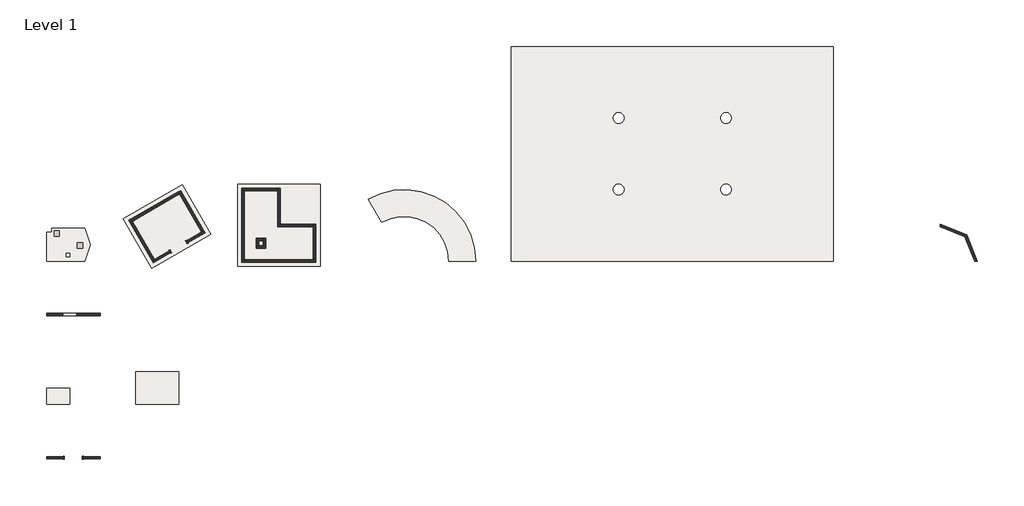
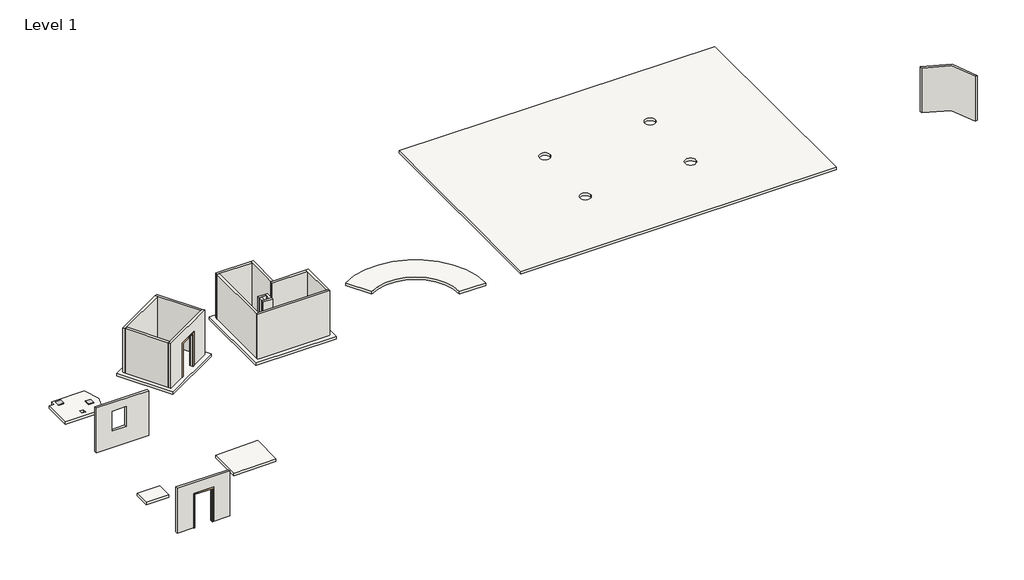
# One storey: 17 walls, 7 slabs, 2 doors, 2 flow terminals.
"""IFC4 building model written with IfcOpenShell, lengths in millimetres."""

from ifc_helpers import new_model, si_unit, point, frame, frame_2d, origin, origin_with_axes, place, context, project, spatial, polyline, circle_curve, trimmed, segment, composite_curve, outline, extrude, faceted_brep, transform, mapped, element, save
from components import bs_test_door_bs_test_door_506ca35c, bs_test_drain_bs_test_drain_60730005

model = new_model("IFC4")

# Units and contexts
model_context = context("Model", 3, world=origin())
ifc_project = project(units=[si_unit("LENGTHUNIT", "METRE", prefix="MILLI")], contexts=[model_context])

# Site, building, storey
site = spatial("IfcSite", under=ifc_project)
building = spatial("IfcBuilding", under=site)
storey = spatial("IfcBuildingStorey", under=building, Name="Level 1", Elevation=0.0)

# Doors
placement = place(None, origin())
bs_test_door_bs_test_door_shape = bs_test_door_bs_test_door_506ca35c(model_context)
element("IfcDoor", 1, ObjectType="BS_Test_Door : BS_Test_Door", at=placement, inside=storey, context=model_context, shape_type="MappedRepresentation", body=[
    mapped(bs_test_door_bs_test_door_shape, transform((7385.6406461, 800.0, 0.0), x_axis=(0.8660254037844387, 0.4999999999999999, 0.0), y_axis=(-0.4999999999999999, 0.8660254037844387, 0.0), z_axis=(0.0, 0.0, 1.0))),
])
element("IfcDoor", 2, ObjectType="BS_Test_Door : BS_Test_Door", at=placement, inside=storey, context=model_context, shape_type="MappedRepresentation", body=[
    mapped(bs_test_door_bs_test_door_shape, transform((1500.0, -11000.0, 0.0), x_axis=(1.0, 0.0, 0.0), y_axis=(0.0, 1.0, 0.0), z_axis=(0.0, 0.0, 1.0))),
])

# Flow terminals
bs_test_drain_bs_test_drain_shape = bs_test_drain_bs_test_drain_60730005(model_context)
element("IfcFlowTerminal", 3, ObjectType="BS_Test_Drain : BS_Test_Drain", at=placement, inside=storey, context=model_context, shape_type="MappedRepresentation", body=[
    mapped(bs_test_drain_bs_test_drain_shape, transform((1880.0, 870.0, 0.0), x_axis=(1.0, 0.0, 0.0), y_axis=(0.0, 1.0, 0.0), z_axis=(0.0, 0.0, 1.0))),
])
element("IfcFlowTerminal", 4, ObjectType="BS_Test_WC : BS_Test_WC", at=placement, inside=storey, context=model_context, shape_type="MappedRepresentation", body=[
    mapped(bs_test_drain_bs_test_drain_shape, transform((570.0, 1550.0, 0.0), x_axis=(1.0, 0.0, 0.0), y_axis=(0.0, 1.0, 0.0), z_axis=(0.0, 0.0, 1.0))),
])

# Slabs
element("IfcSlab", 5, ObjectType="Generic 150mm", at=placement, inside=storey, context=model_context, shape_type="SweptSolid", body=[
    extrude(outline(composite_curve([segment(polyline([(2150.0, 0.0), (0.0, 0.0), (0.0, 1600.0), (300.0, 1600.0), (300.0, 1850.0), (2150.0, 1850.0)]), True, "CONTINUOUS"), segment(trimmed(circle_curve(frame_2d((873.9583333, 925.0)), 1576.0416667), [point((2150.0, 1850.0))], [point((2150.0, 0.0))], False, "CARTESIAN"), True, "CONTINUOUS")], self_intersect=False), holes=[polyline([(1100.0, 450.0), (1100.0, 250.0), (1300.0, 250.0), (1300.0, 450.0), (1100.0, 450.0)])]), frame((0.0, 0.0, -150.0), z_axis=(0.0, 0.0, 1.0), x_axis=(1.0, 0.0, 0.0)), (0.0, 0.0, 1.0), 150.0),
])
element("IfcSlab", 6, ObjectType="Generic 150mm", at=placement, inside=storey, context=model_context, shape_type="SweptSolid", body=[
    extrude(outline(polyline([(9181.0889132, 1490.1923789), (5890.1923789, -409.8076211), (4290.1923789, 2361.473671), (7581.0889132, 4261.473671), (9181.0889132, 1490.1923789)])), frame((0.0, 0.0, -150.0), z_axis=(0.0, 0.0, 1.0), x_axis=(1.0, 0.0, 0.0)), (0.0, 0.0, 1.0), 150.0),
])
element("IfcSlab", 7, ObjectType="Generic 150mm", at=placement, inside=storey, context=model_context, shape_type="SweptSolid", body=[
    extrude(outline(polyline([(15300.0, -300.0), (10700.0, -300.0), (10700.0, 4300.0), (15300.0, 4300.0), (15300.0, -300.0)])), frame((0.0, 0.0, -150.0), z_axis=(0.0, 0.0, 1.0), x_axis=(1.0, 0.0, 0.0)), (0.0, 0.0, 1.0), 150.0),
])
element("IfcSlab", 8, ObjectType="Generic 150mm", at=placement, inside=storey, context=model_context, shape_type="SweptSolid", body=[
    extrude(outline(composite_curve([segment(polyline([(24000.0, 0.0), (22500.0, 0.0)]), True, "CONTINUOUS"), segment(trimmed(circle_curve(frame_2d((20000.0, 0.0)), 2500.0), [point((22500.0, 0.0))], [point((18750.0, 2165.0635095))], True, "CARTESIAN"), True, "CONTINUOUS"), segment(polyline([(18750.0, 2165.0635095), (18000.0, 3464.1016151)]), True, "CONTINUOUS"), segment(trimmed(circle_curve(frame_2d((20000.0, 0.0)), 4000.0), [point((18000.0, 3464.1016151))], [point((24000.0, 0.0))], False, "CARTESIAN"), True, "CONTINUOUS")], self_intersect=False)), frame((0.0, 0.0, -150.0), z_axis=(0.0, 0.0, 1.0), x_axis=(1.0, 0.0, 0.0)), (0.0, 0.0, 1.0), 150.0),
])
element("IfcSlab", 9, ObjectType="Generic 150mm", at=placement, inside=storey, context=model_context, shape_type="SweptSolid", body=[
    extrude(outline(polyline([(44000.0, 0.0), (26000.0, 0.0), (26000.0, 12000.0), (44000.0, 12000.0), (44000.0, 0.0)]), holes=[composite_curve([segment(trimmed(circle_curve(frame_2d((32000.0, 4000.0)), 300.0), [point((31700.0, 4000.0))], [point((32300.0, 4000.0))], True, "CARTESIAN"), True, "CONTINUOUS"), segment(trimmed(circle_curve(frame_2d((32000.0, 4000.0)), 300.0), [point((32300.0, 4000.0))], [point((31700.0, 4000.0))], True, "CARTESIAN"), True, "CONTINUOUS")], self_intersect=False), composite_curve([segment(trimmed(circle_curve(frame_2d((38000.0, 4000.0)), 300.0), [point((37700.0, 4000.0))], [point((38300.0, 4000.0))], True, "CARTESIAN"), True, "CONTINUOUS"), segment(trimmed(circle_curve(frame_2d((38000.0, 4000.0)), 300.0), [point((38300.0, 4000.0))], [point((37700.0, 4000.0))], True, "CARTESIAN"), True, "CONTINUOUS")], self_intersect=False), composite_curve([segment(trimmed(circle_curve(frame_2d((32000.0, 8000.0)), 300.0), [point((31700.0, 8000.0))], [point((32300.0, 8000.0))], True, "CARTESIAN"), True, "CONTINUOUS"), segment(trimmed(circle_curve(frame_2d((32000.0, 8000.0)), 300.0), [point((32300.0, 8000.0))], [point((31700.0, 8000.0))], True, "CARTESIAN"), True, "CONTINUOUS")], self_intersect=False), composite_curve([segment(trimmed(circle_curve(frame_2d((38000.0, 8000.0)), 300.0), [point((37700.0, 8000.0))], [point((38300.0, 8000.0))], True, "CARTESIAN"), True, "CONTINUOUS"), segment(trimmed(circle_curve(frame_2d((38000.0, 8000.0)), 300.0), [point((38300.0, 8000.0))], [point((37700.0, 8000.0))], True, "CARTESIAN"), True, "CONTINUOUS")], self_intersect=False)]), frame((0.0, 0.0, -150.0), z_axis=(0.0, 0.0, 1.0), x_axis=(1.0, 0.0, 0.0)), (0.0, 0.0, 1.0), 150.0),
])
element("IfcSlab", 10, ObjectType="Generic 150mm", at=placement, inside=storey, context=model_context, shape_type="SweptSolid", body=[
    extrude(outline(polyline([(1300.0, -8000.0), (0.0, -8000.0), (0.0, -7100.0), (1300.0, -7100.0), (1300.0, -8000.0)])), frame((0.0, 0.0, -150.0), z_axis=(0.0, 0.0, 1.0), x_axis=(1.0, 0.0, 0.0)), (0.0, 0.0, 1.0), 150.0),
])
element("IfcSlab", 11, ObjectType="Generic 150mm", at=placement, inside=storey, context=model_context, shape_type="SweptSolid", body=[
    extrude(outline(polyline([(-150.029997, 5000.0), (-102.029997, 7400.0), (48.0, 7400.0), (0.0, 5000.0), (-150.029997, 5000.0)])), frame((0.0, -8000.0, 0.0), z_axis=(0.0, 1.0, 0.0), x_axis=(0.0, 0.0, 1.0)), (0.0, 0.0, 1.0), 1800.0),
])

# Walls
element("IfcWall", 12, ObjectType="Interior - 138mm Partition (1-hr)", at=placement, inside=storey, context=model_context, shape_type="Brep", body=[
    faceted_brep([(8865.8785513, 1574.6527408, 2700.0), (5974.6527408, -94.5972592, 2700.0), (5974.6527408, -94.5972592, 0.0), (6987.2529442, 490.0277408, 0.0), (6987.2529442, 490.0277408, 2000.0), (7853.2783479, 990.0277408, 2000.0), (7853.2783479, 990.0277408, 0.0), (8865.8785513, 1574.6527408, 0.0), (5905.4027408, 25.3472592, 2700.0), (6025.3472592, 94.5972592, 2700.0), (8676.6840329, 1625.3472592, 2700.0), (8796.6285513, 1694.5972592, 2700.0), (8796.6285513, 1694.5972592, 0.0), (8676.6840329, 1625.3472592, 0.0), (7784.0283479, 1109.9722592, 0.0), (7784.0283479, 1109.9722592, 2000.0), (6918.0029442, 609.9722592, 2000.0), (6918.0029442, 609.9722592, 0.0), (6025.3472592, 94.5972592, 0.0), (5905.4027408, 25.3472592, 0.0)], [[[0, 1, 2, 3, 4, 5, 6, 7]], [[8, 9, 10, 11, 12, 13, 14, 15, 16, 17, 18, 19]], [[2, 19, 18, 17, 3]], [[12, 7, 6, 14, 13]], [[1, 0, 11, 10, 9, 8]], [[5, 15, 14, 6]], [[15, 5, 4, 16]], [[16, 4, 3, 17]], [[2, 1, 8, 19]], [[0, 7, 12, 11]]]),
])
element("IfcWall", 13, ObjectType="Interior - 138mm Partition (1-hr)", at=placement, inside=storey, context=model_context, shape_type="Brep", body=[
    faceted_brep([(8796.6285513, 1694.5972592, 0.0), (7496.6285513, 3946.2633091, 0.0), (7496.6285513, 3946.2633091, 2700.0), (8796.6285513, 1694.5972592, 2700.0), (8676.6840329, 1625.3472592, 0.0), (8676.6840329, 1625.3472592, 2700.0), (7445.9340329, 3757.0687906, 2700.0), (7376.6840329, 3877.0133091, 2700.0), (7376.6840329, 3877.0133091, 0.0), (7445.9340329, 3757.0687906, 0.0)], [[[0, 1, 2, 3]], [[4, 5, 6, 7, 8, 9]], [[1, 0, 4, 9, 8]], [[3, 2, 7, 6, 5]], [[2, 1, 8, 7]], [[0, 3, 5, 4]]]),
])
element("IfcWall", 14, ObjectType="Interior - 138mm Partition (1-hr)", at=placement, inside=storey, context=model_context, shape_type="Brep", body=[
    faceted_brep([(7376.6840329, 3877.0133091, 0.0), (4605.4027408, 2277.0133091, 0.0), (4605.4027408, 2277.0133091, 2700.0), (7376.6840329, 3877.0133091, 2700.0), (7445.9340329, 3757.0687906, 0.0), (7445.9340329, 3757.0687906, 2700.0), (4794.5972592, 2226.3187906, 2700.0), (4674.6527408, 2157.0687906, 2700.0), (4674.6527408, 2157.0687906, 0.0), (4794.5972592, 2226.3187906, 0.0)], [[[0, 1, 2, 3]], [[4, 5, 6, 7, 8, 9]], [[1, 0, 4, 9, 8]], [[3, 2, 7, 6, 5]], [[2, 1, 8, 7]], [[0, 3, 5, 4]]]),
])
element("IfcWall", 15, ObjectType="Interior - 138mm Partition (1-hr)", at=placement, inside=storey, context=model_context, shape_type="SweptSolid", body=[
    extrude(outline(polyline([(5905.4027408, 25.3472592), (4674.6527408, 2157.0687906), (4794.5972592, 2226.3187906), (6025.3472592, 94.5972592), (5905.4027408, 25.3472592)])), origin_with_axes(), (0.0, 0.0, 1.0), 2700.0),
])
element("IfcWall", 16, ObjectType="Interior - 138mm Partition (1-hr)", at=placement, inside=storey, context=model_context, shape_type="Brep", body=[
    faceted_brep([(10930.75, -69.25, 0.0), (15069.25, -69.25, 0.0), (15069.25, -69.25, 2700.0), (10930.75, -69.25, 2700.0), (10930.75, 69.25, 0.0), (10930.75, 69.25, 2700.0), (11069.25, 69.25, 2700.0), (14930.75, 69.25, 2700.0), (15069.25, 69.25, 2700.0), (15069.25, 69.25, 0.0), (14930.75, 69.25, 0.0), (11069.25, 69.25, 0.0)], [[[0, 1, 2, 3]], [[4, 5, 6, 7, 8, 9, 10, 11]], [[1, 0, 4, 11, 10, 9]], [[3, 2, 8, 7, 6, 5]], [[2, 1, 9, 8]], [[0, 3, 5, 4]]]),
])
element("IfcWall", 17, ObjectType="Interior - 138mm Partition (1-hr)", at=placement, inside=storey, context=model_context, shape_type="Brep", body=[
    faceted_brep([(15069.25, 69.25, 0.0), (15069.25, 2069.25, 0.0), (15069.25, 2069.25, 2700.0), (15069.25, 69.25, 2700.0), (14930.75, 69.25, 0.0), (14930.75, 69.25, 2700.0), (14930.75, 1930.75, 2700.0), (14930.75, 2069.25, 2700.0), (14930.75, 2069.25, 0.0), (14930.75, 1930.75, 0.0)], [[[0, 1, 2, 3]], [[4, 5, 6, 7, 8, 9]], [[1, 0, 4, 9, 8]], [[3, 2, 7, 6, 5]], [[2, 1, 8, 7]], [[0, 3, 5, 4]]]),
])
element("IfcWall", 18, ObjectType="Interior - 138mm Partition (1-hr)", at=placement, inside=storey, context=model_context, shape_type="Brep", body=[
    faceted_brep([(14930.75, 2069.25, 0.0), (13069.25, 2069.25, 0.0), (12930.75, 2069.25, 0.0), (12930.75, 2069.25, 2700.0), (13069.25, 2069.25, 2700.0), (14930.75, 2069.25, 2700.0), (14930.75, 1930.75, 0.0), (14930.75, 1930.75, 2700.0), (12930.75, 1930.75, 2700.0), (12930.75, 1930.75, 0.0)], [[[0, 1, 2, 3, 4, 5]], [[6, 7, 8, 9]], [[2, 1, 0, 6, 9]], [[5, 4, 3, 8, 7]], [[3, 2, 9, 8]], [[0, 5, 7, 6]]]),
])
element("IfcWall", 19, ObjectType="Interior - 138mm Partition (1-hr)", at=placement, inside=storey, context=model_context, shape_type="Brep", body=[
    faceted_brep([(13069.25, 2069.25, 0.0), (13069.25, 4069.25, 0.0), (13069.25, 4069.25, 2700.0), (13069.25, 2069.25, 2700.0), (12930.75, 2069.25, 0.0), (12930.75, 2069.25, 2700.0), (12930.75, 3930.75, 2700.0), (12930.75, 4069.25, 2700.0), (12930.75, 4069.25, 0.0), (12930.75, 3930.75, 0.0)], [[[0, 1, 2, 3]], [[4, 5, 6, 7, 8, 9]], [[1, 0, 4, 9, 8]], [[3, 2, 7, 6, 5]], [[2, 1, 8, 7]], [[0, 3, 5, 4]]]),
])
element("IfcWall", 20, ObjectType="Interior - 138mm Partition (1-hr)", at=placement, inside=storey, context=model_context, shape_type="Brep", body=[
    faceted_brep([(12930.75, 4069.25, 0.0), (10930.75, 4069.25, 0.0), (10930.75, 4069.25, 2700.0), (12930.75, 4069.25, 2700.0), (12930.75, 3930.75, 0.0), (12930.75, 3930.75, 2700.0), (11069.25, 3930.75, 2700.0), (10930.75, 3930.75, 2700.0), (10930.75, 3930.75, 0.0), (11069.25, 3930.75, 0.0)], [[[0, 1, 2, 3]], [[4, 5, 6, 7, 8, 9]], [[1, 0, 4, 9, 8]], [[3, 2, 7, 6, 5]], [[2, 1, 8, 7]], [[0, 3, 5, 4]]]),
])
element("IfcWall", 21, ObjectType="Interior - 138mm Partition (1-hr)", at=placement, inside=storey, context=model_context, shape_type="SweptSolid", body=[
    extrude(outline(polyline([(10930.75, 69.25), (10930.75, 3930.75), (11069.25, 3930.75), (11069.25, 69.25), (10930.75, 69.25)])), origin_with_axes(), (0.0, 0.0, 1.0), 2700.0),
])
element("IfcWall", 22, ObjectType="Interior - 138mm Partition (1-hr)", at=placement, inside=storey, context=model_context, shape_type="Brep", body=[
    faceted_brep([(11730.75, 730.75, 0.0), (12269.25, 730.75, 0.0), (12269.25, 730.75, 2700.0), (11730.75, 730.75, 2700.0), (11730.75, 869.25, 0.0), (11730.75, 869.25, 2700.0), (11869.25, 869.25, 2700.0), (12130.75, 869.25, 2700.0), (12269.25, 869.25, 2700.0), (12269.25, 869.25, 0.0), (12130.75, 869.25, 0.0), (11869.25, 869.25, 0.0)], [[[0, 1, 2, 3]], [[4, 5, 6, 7, 8, 9, 10, 11]], [[1, 0, 4, 11, 10, 9]], [[3, 2, 8, 7, 6, 5]], [[2, 1, 9, 8]], [[0, 3, 5, 4]]]),
])
element("IfcWall", 23, ObjectType="Interior - 138mm Partition (1-hr)", at=placement, inside=storey, context=model_context, shape_type="Brep", body=[
    faceted_brep([(12269.25, 869.25, 0.0), (12269.25, 1269.25, 0.0), (12269.25, 1269.25, 2700.0), (12269.25, 869.25, 2700.0), (12130.75, 869.25, 0.0), (12130.75, 869.25, 2700.0), (12130.75, 1130.75, 2700.0), (12130.75, 1269.25, 2700.0), (12130.75, 1269.25, 0.0), (12130.75, 1130.75, 0.0)], [[[0, 1, 2, 3]], [[4, 5, 6, 7, 8, 9]], [[1, 0, 4, 9, 8]], [[3, 2, 7, 6, 5]], [[2, 1, 8, 7]], [[0, 3, 5, 4]]]),
])
element("IfcWall", 24, ObjectType="Interior - 138mm Partition (1-hr)", at=placement, inside=storey, context=model_context, shape_type="Brep", body=[
    faceted_brep([(12130.75, 1269.25, 0.0), (11730.75, 1269.25, 0.0), (11730.75, 1269.25, 2700.0), (12130.75, 1269.25, 2700.0), (12130.75, 1130.75, 0.0), (12130.75, 1130.75, 2700.0), (11869.25, 1130.75, 2700.0), (11730.75, 1130.75, 2700.0), (11730.75, 1130.75, 0.0), (11869.25, 1130.75, 0.0)], [[[0, 1, 2, 3]], [[4, 5, 6, 7, 8, 9]], [[1, 0, 4, 9, 8]], [[3, 2, 7, 6, 5]], [[2, 1, 8, 7]], [[0, 3, 5, 4]]]),
])
element("IfcWall", 25, ObjectType="Interior - 138mm Partition (1-hr)", at=placement, inside=storey, context=model_context, shape_type="SweptSolid", body=[
    extrude(outline(polyline([(11730.75, 869.25), (11730.75, 1130.75), (11869.25, 1130.75), (11869.25, 869.25), (11730.75, 869.25)])), origin_with_axes(), (0.0, 0.0, 1.0), 2700.0),
])
element("IfcWall", 26, ObjectType="Interior - 138mm Partition (1-hr)", at=placement, inside=storey, context=model_context, shape_type="SweptSolid", body=[
    extrude(outline(polyline([(0.0, 0.0), (0.0, 3000.0), (2700.0, 3000.0), (2700.0, 0.0), (0.0, 0.0)]), holes=[polyline([(2200.0, 900.0), (2200.0, 1700.0), (1000.0, 1700.0), (1000.0, 900.0), (2200.0, 900.0)])]), frame((0.0, -3069.25, 0.0), z_axis=(0.0, 1.0, 0.0), x_axis=(0.0, 0.0, 1.0)), (0.0, 0.0, 1.0), 138.5),
])
element("IfcWall", 27, ObjectType="Interior - 138mm Partition (1-hr)", at=placement, inside=storey, context=model_context, shape_type="SweptSolid", body=[
    extrude(outline(polyline([(0.0, 3000.0), (2700.0, 3000.0), (2700.0, 0.0), (0.0, 0.0), (0.0, 1000.0), (2000.0, 1000.0), (2000.0, 2000.0), (0.0, 2000.0), (0.0, 3000.0)])), frame((0.0, -11069.25, 0.0), z_axis=(0.0, 1.0, 0.0), x_axis=(0.0, 0.0, 1.0)), (0.0, 0.0, 1.0), 138.5),
])
element("IfcWall", 28, ObjectType="Interior - 138mm Partition (1-hr)", at=placement, inside=storey, context=model_context, shape_type="SweptSolid", body=[
    extrude(outline(composite_curve([segment(polyline([(50000.0, 1930.75), (50000.0, 2069.25)]), True, "CONTINUOUS"), segment(trimmed(circle_curve(frame_2d((50000.0, 0.0)), 2069.25), [point((50000.0, 2069.25))], [point((52069.25, 0.0))], False, "CARTESIAN"), True, "CONTINUOUS"), segment(polyline([(52069.25, 0.0), (51930.75, 0.0)]), True, "CONTINUOUS"), segment(trimmed(circle_curve(frame_2d((50000.0, 0.0)), 1930.75), [point((51930.75, 0.0))], [point((50000.0, 1930.75))], True, "CARTESIAN"), True, "CONTINUOUS")], self_intersect=False)), origin_with_axes(), (0.0, 0.0, 1.0), 2700.0),
])

save(model, "model.ifc")
